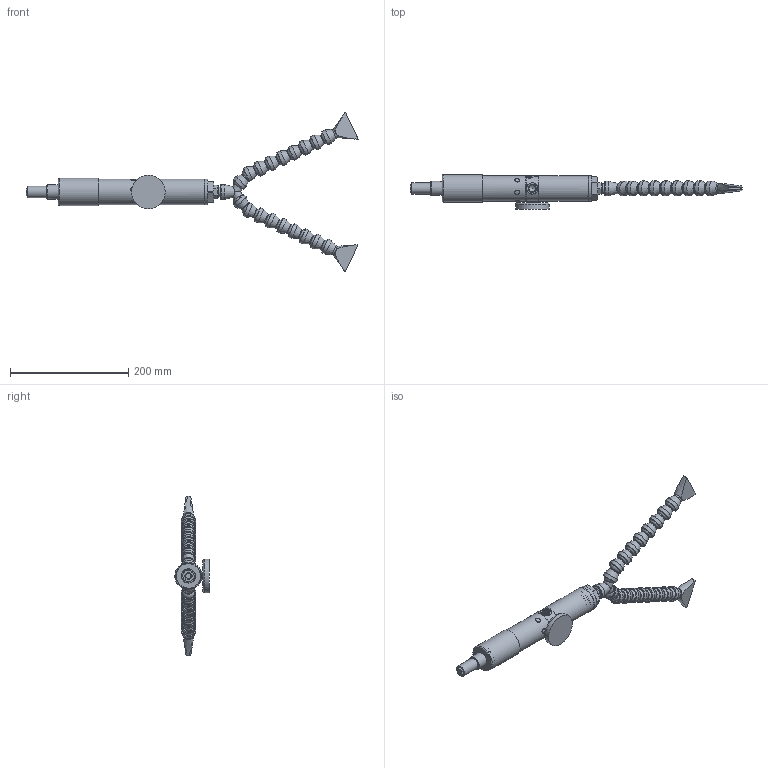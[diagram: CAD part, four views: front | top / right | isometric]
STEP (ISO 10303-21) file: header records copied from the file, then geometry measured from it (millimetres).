
FILE_DESCRIPTION (( 'STEP AP214' ), '1' );
FILE_NAME ('SIMP - CS_15 YR_Q1200-2.STEP', '2023-06-02T11:43:39', ( '' ), ( '' ), 'SwSTEP 2.0', 'SolidWorks 2021', '' );
FILE_SCHEMA (( 'AUTOMOTIVE_DESIGN' ));
Length unit declared in the file: millimetre
Products named in the file (1): SIMP - CS_15 YR_Q1200-2
Bounding box: 561.56 x 57.97 x 269.78 mm (x, y, z)
Volume: 503007.4 mm3; surface area: 145980.3 mm2
Topology: 25 solids, 30 shells, 1021 faces, 2491 edges, 1598 vertices
Faces by surface type: plane 351, bspline 298, cylinder 230, cone 76, torus 66
Full cylindrical faces by diameter (mm): 3.2 x1, 3.3 x1, 4 x1, 6 x1, 6.5 x1, 7 x1, 8 x6, 9 x1, 9.4 x1, 9.5 x1, 10 x1, 11.8 x7, 12 x2, 12.2 x1, 12.3 x16, 12.95 x2, 13.16 x1, 14.2 x1, 16 x2, 16.2 x1, 16.3 x16, 16.95 x2, 19 x2, 19.3 x1, 20.8 x2, 21 x17, 23.9 x1, 24.8 x2, 25 x17, 35.8 x1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
Entity records: 63668 total; most frequent: CARTESIAN_POINT 32520, ORIENTED_EDGE 4304, DIRECTION 3130, EDGE_CURVE 2152, VERTEX_POINT 1522, EDGE_LOOP 1394, AXIS2_PLACEMENT_3D 1344, FACE_OUTER_BOUND 1198
